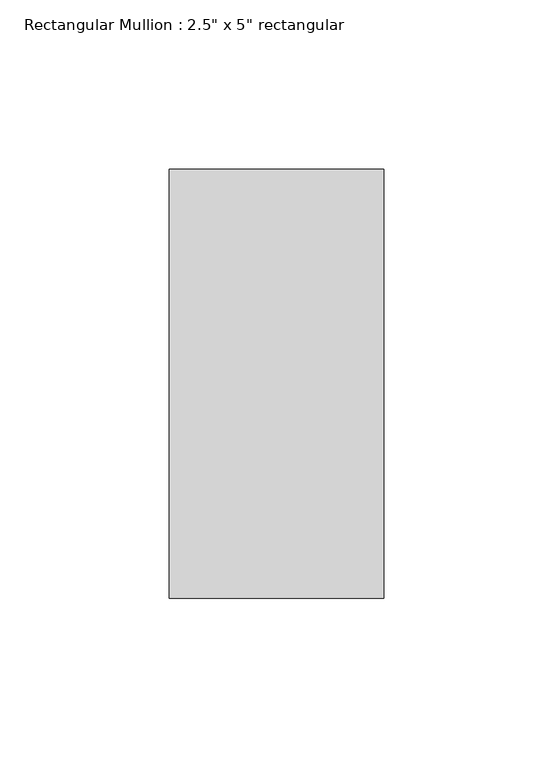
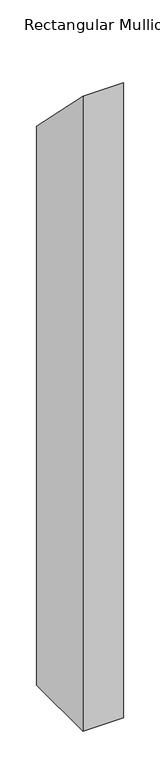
"""IFC4 building model written with IfcOpenShell, lengths in millimetres: member geometry."""

from ifc_helpers import new_model, si_unit, frame, origin, place, context, project, spatial, polyline, outline, extrude, source, transform, mapped, element, save


def member_3e45c361(model_context):
    return source(origin(), model_context, "Body", "SweptSolid", [
        extrude(outline(polyline([(-76.2, 76.2), (50.8, -50.8), (50.8, -981.075), (-76.2, -981.075), (-76.2, 76.2)])), frame((-63.5, 0.0, 0.0), z_axis=(1.0, 0.0, 0.0), x_axis=(0.0, 1.0, 0.0)), (0.0, 0.0, 1.0), 63.5),
    ])


if __name__ == "__main__":
    model = new_model("IFC4")
    model_context = context("Model", 3, world=origin())
    ifc_project = project(units=[si_unit("LENGTHUNIT", "METRE", prefix="MILLI")], contexts=[model_context])
    site = spatial("IfcSite", under=ifc_project)
    building = spatial("IfcBuilding", under=site)
    placement = place(None, origin())
    member_shape = member_3e45c361(model_context)
    element("IfcMember", 1, ObjectType="Rectangular Mullion : 2.5\" x 5\" rectangular", at=placement, inside=building, context=model_context, shape_type="MappedRepresentation", body=[
        mapped(member_shape, transform((0.0, 0.0, 0.0), x_axis=(1.0, 0.0, 0.0), y_axis=(0.0, 1.0, 0.0), z_axis=(0.0, 0.0, 1.0))),
    ])
    save(model, "model.ifc")
